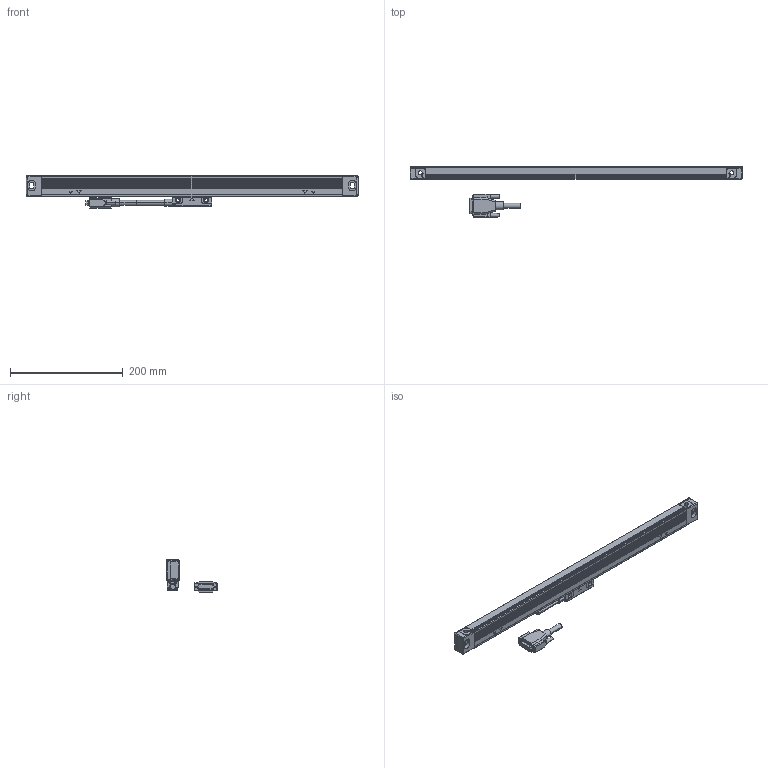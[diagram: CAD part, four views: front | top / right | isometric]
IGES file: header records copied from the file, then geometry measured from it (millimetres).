
Start section: Elysium IGES Interface
Global section: file name: 88H\\Utsu119s\kiyo_cad\data\3D\AT715\HP掲載用_201710\ﾓﾃﾞﾙ修正後_IGES\AT715-400_営業送付.igs; native system: Creo Elements/Direct Modeling 18.1B  29-Sep-2012; preprocessor: Creo Element/Direct IGES_3D V2.2; author: Unknown; organization: Unknown; date: 20181220.143955; units: millimetre
Bounding box: 588 x 90 x 57.65 mm (x, y, z)
Volume: 465665.5 mm3; surface area: 107317.6 mm2
Topology: 3 solids, 5 shells, 501 faces, 1300 edges, 836 vertices
Faces by surface type: bspline 501
